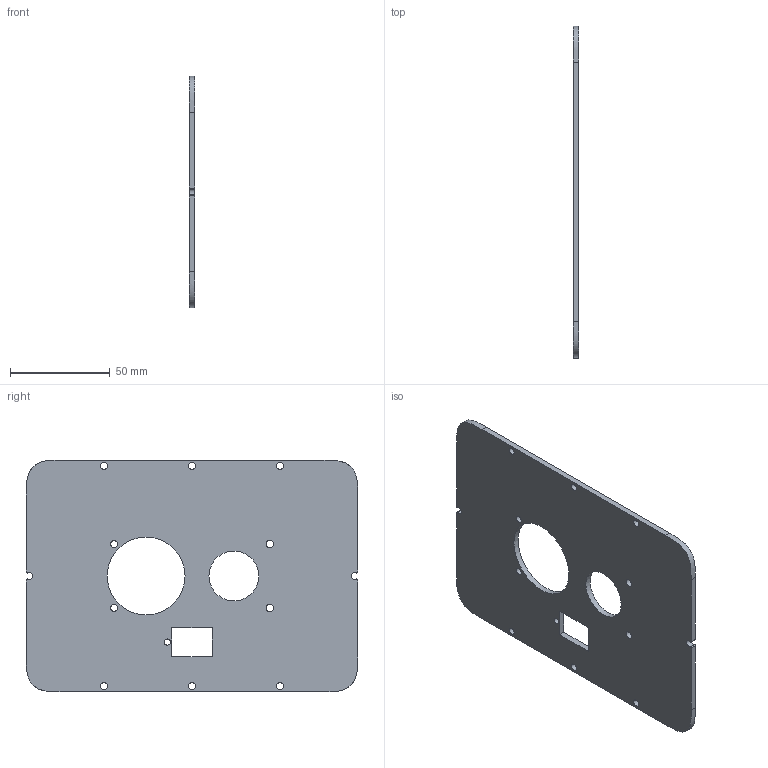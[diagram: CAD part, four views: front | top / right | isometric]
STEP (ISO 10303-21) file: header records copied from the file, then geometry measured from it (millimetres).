
FILE_DESCRIPTION(/* description */ (''),/* implementation_level */ '2;1');
FILE_NAME(/* name */ 'INTERNAL BACK PANEL.step',/* time_stamp */ '2024-02-28T16:55:59Z',/* author */ (''),/* organization */ (''),/* preprocessor_version */ 'ST-DEVELOPER v20',/* originating_system */ 'Autodesk Translation Framework v12.20.1.177',/* authorisation */ '');
FILE_SCHEMA (('AUTOMOTIVE_DESIGN { 1 0 10303 214 3 1 1 }'));
Length unit declared in the file: millimetre
Products named in the file (1): INTERNAL BACK PANEL
Bounding box: 3 x 166.22 x 116.22 mm (x, y, z)
Volume: 51411.7 mm3; surface area: 36998.1 mm2
Topology: 1 solids, 1 shells, 35 faces, 99 edges, 66 vertices
Faces by surface type: cylinder 19, plane 12, bspline 4
Full cylindrical faces by diameter (mm): 3.1 x1, 3.45 x2, 3.5 x6, 3.75 x2, 25 x1, 39 x1
Entity records: 1463 total; most frequent: CARTESIAN_POINT 445, ORIENTED_EDGE 198, DIRECTION 193, EDGE_CURVE 99, AXIS2_PLACEMENT_3D 70, VERTEX_POINT 66, EDGE_LOOP 63, LINE 53
